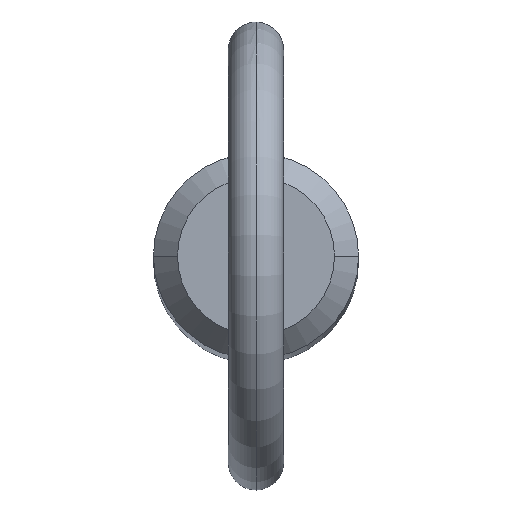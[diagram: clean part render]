
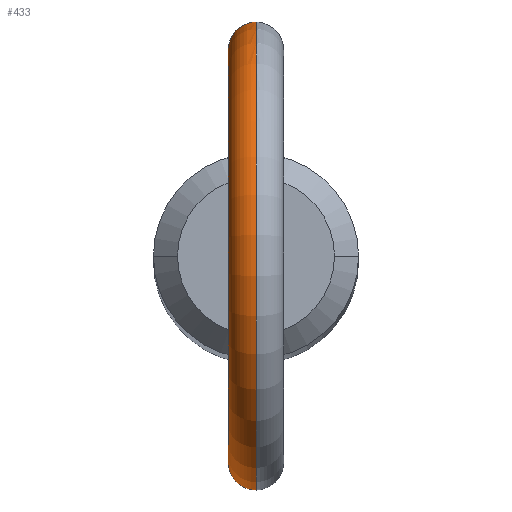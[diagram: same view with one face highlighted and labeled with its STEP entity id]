
A CAD part, top view. The second image highlights one B-rep face of the part: STEP entity #433.
In plain terms, the highlighted toroidal (fillet/blend) face has major radius 11.2 mm and minor radius 1.5 mm.
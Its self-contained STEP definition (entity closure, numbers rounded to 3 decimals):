
#10 = AXIS2_PLACEMENT_3D ( 'NONE', #245, #471, #254 ) ;
#23 = CARTESIAN_POINT ( 'NONE',  ( 0., -5.55, 135.877 ) ) ;
#33 = CARTESIAN_POINT ( 'NONE',  ( -0.211, -5.547, 139.329 ) ) ;
#36 = EDGE_CURVE ( 'NONE', #458, #467, #67, .T. ) ;
#39 = EDGE_CURVE ( 'NONE', #458, #234, #431, .T. ) ;
#54 = CARTESIAN_POINT ( 'NONE',  ( -0.107, -5.55, 135.877 ) ) ;
#57 = CARTESIAN_POINT ( 'NONE',  ( -0.212, -5.547, 135.888 ) ) ;
#61 = CARTESIAN_POINT ( 'NONE',  ( -0.523, -5.526, 135.966 ) ) ;
#63 = CARTESIAN_POINT ( 'NONE',  ( -1.509, 5.341, 137.355 ) ) ;
#67 = CIRCLE ( 'NONE', #90, 9.7 ) ;
#71 = CARTESIAN_POINT ( 'NONE',  ( 0., -5.55, 135.877 ) ) ;
#72 = CARTESIAN_POINT ( 'NONE',  ( -1.503, -5.343, 137.459 ) ) ;
#75 = CARTESIAN_POINT ( 'NONE',  ( -0.416, -5.535, 139.267 ) ) ;
#90 = AXIS2_PLACEMENT_3D ( 'NONE', #344, #134, #419 ) ;
#91 = EDGE_CURVE ( 'NONE', #152, #467, #275, .T. ) ;
#96 = CARTESIAN_POINT ( 'NONE',  ( -1.474, 5.351, 137.985 ) ) ;
#102 = CARTESIAN_POINT ( 'NONE',  ( -0.807, -5.492, 136.105 ) ) ;
#105 = CARTESIAN_POINT ( 'NONE',  ( -1.321, 5.397, 138.404 ) ) ;
#109 = CARTESIAN_POINT ( 'NONE',  ( -0.976, -5.464, 136.231 ) ) ;
#110 = TOROIDAL_SURFACE ( 'NONE', #10, 11.2, 1.5 ) ;
#113 = CARTESIAN_POINT ( 'NONE',  ( -1.054, -5.449, 136.304 ) ) ;
#120 = DIRECTION ( 'NONE',  ( 0., 0., -1. ) ) ;
#134 = DIRECTION ( 'NONE',  ( 1., 0., 0. ) ) ;
#136 = CARTESIAN_POINT ( 'NONE',  ( -0.786, 5.497, 139.057 ) ) ;
#138 = CARTESIAN_POINT ( 'NONE',  ( 0., 5.55, 139.345 ) ) ;
#141 = CARTESIAN_POINT ( 'NONE',  ( -0.807, 5.492, 136.106 ) ) ;
#144 = CARTESIAN_POINT ( 'NONE',  ( -1.44, -5.36, 137.987 ) ) ;
#145 = CARTESIAN_POINT ( 'NONE',  ( -1.485, -5.348, 137.779 ) ) ;
#146 = CARTESIAN_POINT ( 'NONE',  ( -0.106, -5.55, 139.345 ) ) ;
#147 = CARTESIAN_POINT ( 'NONE',  ( -1.195, -5.421, 138.571 ) ) ;
#151 = CARTESIAN_POINT ( 'NONE',  ( -0.513, -5.527, 139.223 ) ) ;
#152 = VERTEX_POINT ( 'NONE', #71 ) ;
#176 = CARTESIAN_POINT ( 'NONE',  ( -1.486, 5.348, 137.138 ) ) ;
#182 = ORIENTED_EDGE ( 'NONE', *, *, #272, .F. ) ;
#195 = DIRECTION ( 'NONE',  ( 1., 0., 0. ) ) ;
#205 = ORIENTED_EDGE ( 'NONE', *, *, #91, .F. ) ;
#207 = CARTESIAN_POINT ( 'NONE',  ( -0.214, 5.55, 135.877 ) ) ;
#211 = CARTESIAN_POINT ( 'NONE',  ( 0., 5.55, 135.877 ) ) ;
#215 = CARTESIAN_POINT ( 'NONE',  ( -1.26, 5.407, 136.543 ) ) ;
#218 = CARTESIAN_POINT ( 'NONE',  ( 0., -5.55, 139.345 ) ) ;
#228 = CARTESIAN_POINT ( 'NONE',  ( 0., -5.55, 139.345 ) ) ;
#231 = FACE_OUTER_BOUND ( 'NONE', #313, .T. ) ;
#234 = VERTEX_POINT ( 'NONE', #516 ) ;
#245 = CARTESIAN_POINT ( 'NONE',  ( 0., 0., 147.3 ) ) ;
#254 = DIRECTION ( 'NONE',  ( 0., 0., -1. ) ) ;
#260 = CARTESIAN_POINT ( 'NONE',  ( 0., 5.55, 139.345 ) ) ;
#261 = CARTESIAN_POINT ( 'NONE',  ( -0.716, 5.504, 136.052 ) ) ;
#264 = CARTESIAN_POINT ( 'NONE',  ( -1.455, -5.356, 137.036 ) ) ;
#272 = EDGE_CURVE ( 'NONE', #234, #152, #445, .T. ) ;
#273 = CARTESIAN_POINT ( 'NONE',  ( -1.5, -5.343, 137.353 ) ) ;
#275 = B_SPLINE_CURVE_WITH_KNOTS ( 'NONE', 3,
 ( #23, #54, #57, #306, #61, #350, #102, #109, #113, #389, #358, #264, #324, #273, #72, #145, #144, #432, #147, #480, #393, #151, #75, #33, #146, #228 ),
 .UNSPECIFIED., .F., .F.,
 ( 4, 2, 2, 2, 2, 2, 2, 2, 2, 2, 2, 2, 4 ),
 ( 0.01, 0.01, 0.01, 0.011, 0.011, 0.012, 0.012, 0.012, 0.013, 0.013, 0.014, 0.014, 0.015 ),
 .UNSPECIFIED. ) ;
#303 = CARTESIAN_POINT ( 'NONE',  ( -0.976, 5.464, 136.231 ) ) ;
#306 = CARTESIAN_POINT ( 'NONE',  ( -0.42, -5.535, 135.932 ) ) ;
#311 = CARTESIAN_POINT ( 'NONE',  ( -1.363, 5.38, 136.734 ) ) ;
#313 = EDGE_LOOP ( 'NONE', ( #182, #378, #375, #205 ) ) ;
#324 = CARTESIAN_POINT ( 'NONE',  ( -1.477, -5.35, 137.142 ) ) ;
#344 = CARTESIAN_POINT ( 'NONE',  ( 0., 0., 147.3 ) ) ;
#350 = CARTESIAN_POINT ( 'NONE',  ( -0.716, -5.504, 136.052 ) ) ;
#353 = CARTESIAN_POINT ( 'NONE',  ( -1.055, 5.449, 136.305 ) ) ;
#358 = CARTESIAN_POINT ( 'NONE',  ( -1.362, -5.381, 136.732 ) ) ;
#375 = ORIENTED_EDGE ( 'NONE', *, *, #36, .T. ) ;
#378 = ORIENTED_EDGE ( 'NONE', *, *, #39, .F. ) ;
#388 = CARTESIAN_POINT ( 'NONE',  ( -0.425, 5.537, 139.277 ) ) ;
#389 = CARTESIAN_POINT ( 'NONE',  ( -1.26, -5.407, 136.542 ) ) ;
#393 = CARTESIAN_POINT ( 'NONE',  ( -0.785, -5.497, 139.058 ) ) ;
#401 = CARTESIAN_POINT ( 'NONE',  ( 0., 0., 147.3 ) ) ;
#419 = DIRECTION ( 'NONE',  ( 0., 0., -1. ) ) ;
#431 = B_SPLINE_CURVE_WITH_KNOTS ( 'NONE', 3,
 ( #138, #470, #388, #136, #509, #105, #96, #63, #176, #311, #215, #353, #303, #141, #261, #504, #207, #211 ),
 .UNSPECIFIED., .F., .F.,
 ( 4, 2, 2, 2, 2, 2, 2, 2, 4 ),
 ( 0.006, 0.006, 0.007, 0.008, 0.009, 0.009, 0.01, 0.01, 0.011 ),
 .UNSPECIFIED. ) ;
#432 = CARTESIAN_POINT ( 'NONE',  ( -1.294, -5.398, 138.386 ) ) ;
#433 = ADVANCED_FACE ( 'NONE', ( #231 ), #110, .T. ) ;
#445 = CIRCLE ( 'NONE', #508, 12.7 ) ;
#458 = VERTEX_POINT ( 'NONE', #260 ) ;
#467 = VERTEX_POINT ( 'NONE', #218 ) ;
#470 = CARTESIAN_POINT ( 'NONE',  ( -0.213, 5.55, 139.345 ) ) ;
#471 = DIRECTION ( 'NONE',  ( 1., 0., 0. ) ) ;
#480 = CARTESIAN_POINT ( 'NONE',  ( -0.939, -5.472, 138.91 ) ) ;
#504 = CARTESIAN_POINT ( 'NONE',  ( -0.425, 5.537, 135.921 ) ) ;
#508 = AXIS2_PLACEMENT_3D ( 'NONE', #401, #195, #120 ) ;
#509 = CARTESIAN_POINT ( 'NONE',  ( -0.941, 5.471, 138.907 ) ) ;
#516 = CARTESIAN_POINT ( 'NONE',  ( 0., 5.55, 135.877 ) ) ;
